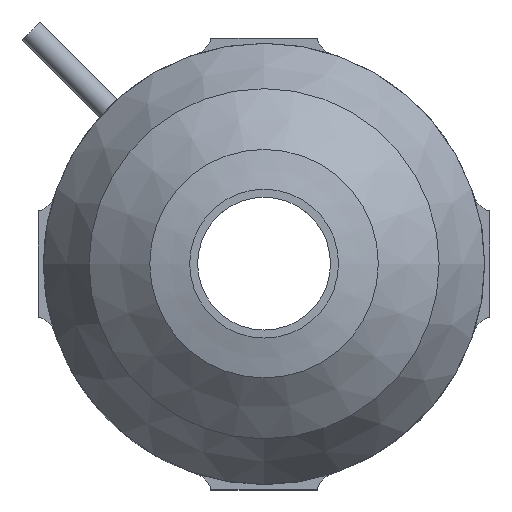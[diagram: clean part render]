
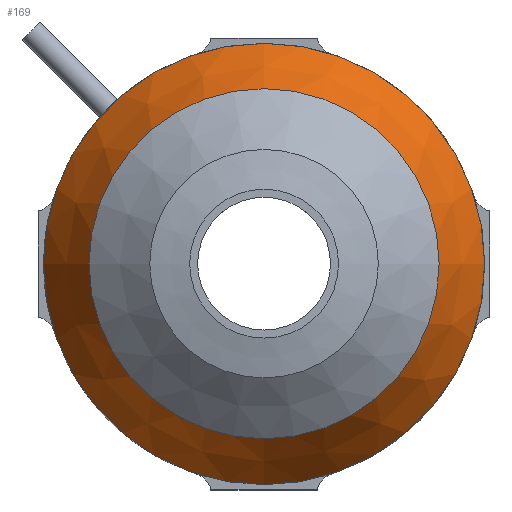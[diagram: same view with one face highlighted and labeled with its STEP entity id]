
A CAD part, top view. The second image highlights one B-rep face of the part: STEP entity #169.
In plain terms, the highlighted conical face has half-angle 30.315 degrees and reference radius 41.5 mm.
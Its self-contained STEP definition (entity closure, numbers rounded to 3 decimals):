
#169 = ADVANCED_FACE( '', ( #406, #407 ), #408, .T. );
#406 = FACE_OUTER_BOUND( '', #739, .T. );
#407 = FACE_BOUND( '', #740, .T. );
#408 = CONICAL_SURFACE( '', #741, 41.5, 0.529 );
#739 = EDGE_LOOP( '', ( #1164 ) );
#740 = EDGE_LOOP( '', ( #1165 ) );
#741 = AXIS2_PLACEMENT_3D( '', #1166, #1167, #1168 );
#1164 = ORIENTED_EDGE( '', *, *, #1632, .F. );
#1165 = ORIENTED_EDGE( '', *, *, #1633, .T. );
#1166 = CARTESIAN_POINT( '', ( 0., 0., 23. ) );
#1167 = DIRECTION( '', ( 0., 0., -1. ) );
#1168 = DIRECTION( '', ( -1., 0., 0. ) );
#1632 = EDGE_CURVE( '', #1891, #1891, #1892, .T. );
#1633 = EDGE_CURVE( '', #1893, #1893, #1894, .T. );
#1891 = VERTEX_POINT( '', #2675 );
#1892 = CIRCLE( '', #2676, 41.5 );
#1893 = VERTEX_POINT( '', #2677 );
#1894 = CIRCLE( '', #2678, 32.94 );
#2675 = CARTESIAN_POINT( '', ( -41.5, 0., 23. ) );
#2676 = AXIS2_PLACEMENT_3D( '', #3434, #3435, #3436 );
#2677 = CARTESIAN_POINT( '', ( -32.94, 0., 37.64 ) );
#2678 = AXIS2_PLACEMENT_3D( '', #3437, #3438, #3439 );
#3434 = CARTESIAN_POINT( '', ( 0., 0., 23. ) );
#3435 = DIRECTION( '', ( 0., 0., -1. ) );
#3436 = DIRECTION( '', ( -1., 0., 0. ) );
#3437 = CARTESIAN_POINT( '', ( 0., 0., 37.64 ) );
#3438 = DIRECTION( '', ( 0., 0., -1. ) );
#3439 = DIRECTION( '', ( -1., 0., 0. ) );
